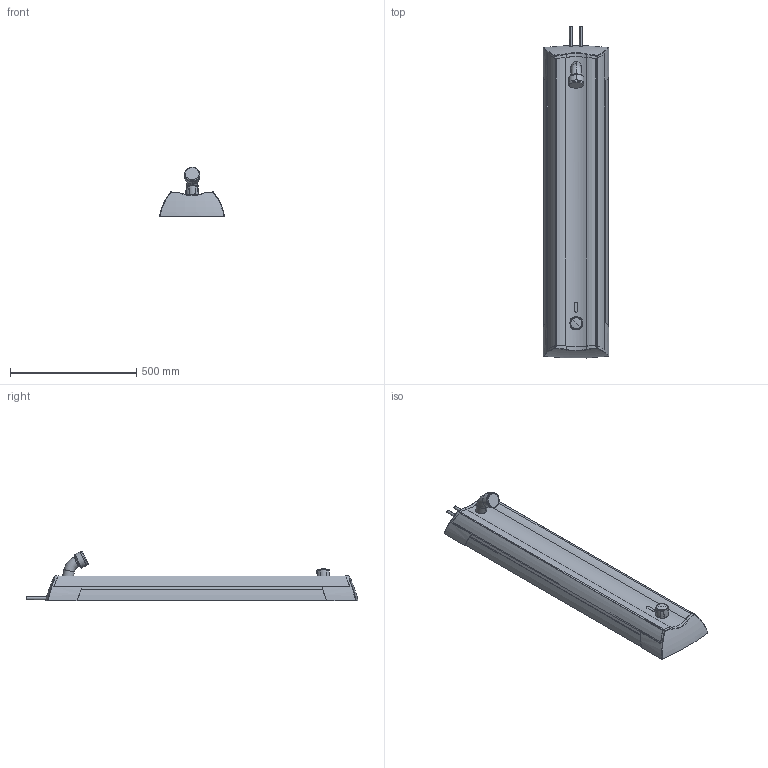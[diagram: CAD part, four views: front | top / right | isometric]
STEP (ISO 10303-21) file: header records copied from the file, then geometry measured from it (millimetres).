
FILE_DESCRIPTION (( 'STEP AP203' ), '1' );
FILE_NAME ('6664S+6664STX.STEP', '2018-07-11T11:36:55', ( '' ), ( '' ), 'SwSTEP 2.0', 'SolidWorks 2016', '' );
FILE_SCHEMA (( 'CONFIG_CONTROL_DESIGN' ));
Length unit declared in the file: millimetre
Products named in the file (1): 6664S+6664STX
Bounding box: 257.76 x 1313.02 x 196.6 mm (x, y, z)
Surface area: 923031.4 mm2 (no closed solid volume)
Topology: 0 solids, 1 shells, 257 faces, 667 edges, 399 vertices
Faces by surface type: bspline 95, cylinder 58, plane 52, torus 26, sphere 26
Entity records: 11370 total; most frequent: CARTESIAN_POINT 6439, ORIENTED_EDGE 1168, DIRECTION 811, EDGE_CURVE 584, VERTEX_POINT 352, AXIS2_PLACEMENT_3D 313, EDGE_LOOP 252, ADVANCED_FACE 243
